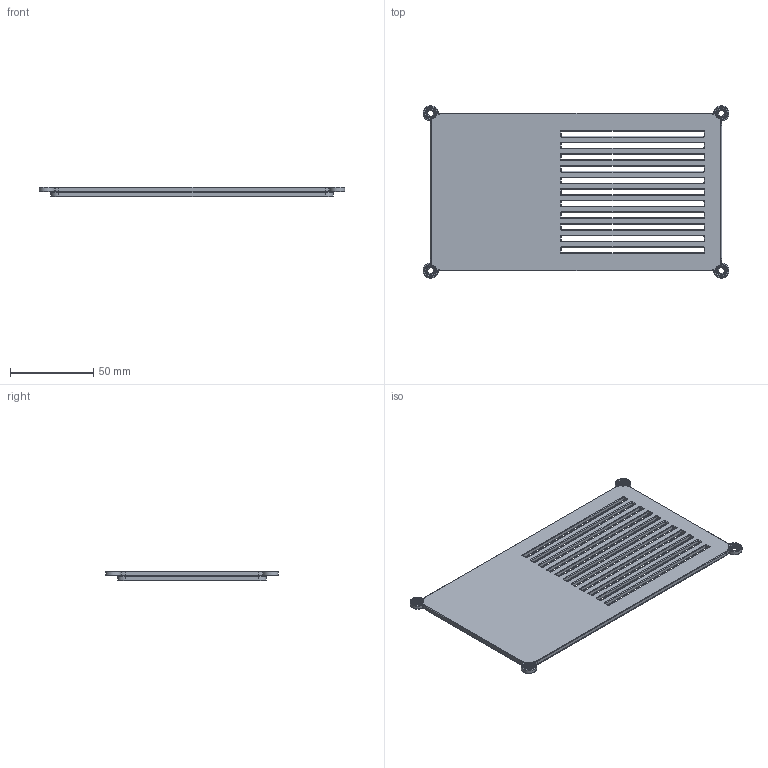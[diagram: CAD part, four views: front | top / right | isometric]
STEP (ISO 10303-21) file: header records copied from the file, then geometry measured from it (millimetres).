
FILE_DESCRIPTION(('Open CASCADE Model'),'2;1');
FILE_NAME('Open CASCADE Shape Model','2026-11-19T06:42:29',('Author'),( 'Open CASCADE'),'Open CASCADE STEP processor 8.0','Open CASCADE 8.0' ,'Unknown');
FILE_SCHEMA(('AUTOMOTIVE_DESIGN { 1 0 10303 214 1 1 1 1 }'));
Length unit declared in the file: millimetre
Products named in the file (1): Open CASCADE STEP translator 8.0 44
Bounding box: 183.66 x 103.66 x 5.8 mm (x, y, z)
Volume: 40752.3 mm3; surface area: 36456.7 mm2
Topology: 1 solids, 1 shells, 416 faces, 952 edges, 544 vertices
Faces by surface type: cylinder 184, torus 160, plane 64, bspline 8
Full cylindrical faces by diameter (mm): 3.55 x4, 6.35 x4
Entity records: 24144 total; most frequent: CARTESIAN_POINT 5189, DIRECTION 3624, ORIENTED_EDGE 1904, PCURVE 1904, DEFINITIONAL_REPRESENTATION 1904, LINE 1512, VECTOR 1512, AXIS2_PLACEMENT_3D 1001
